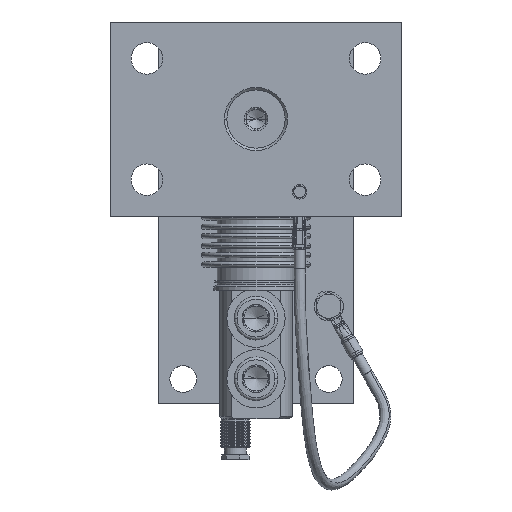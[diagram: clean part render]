
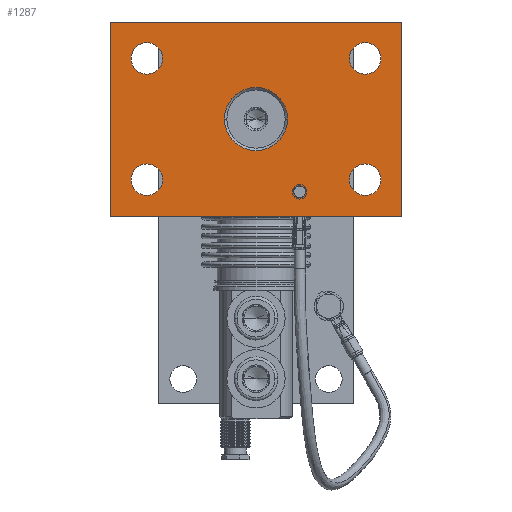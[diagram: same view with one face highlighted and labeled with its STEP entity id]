
A CAD part, top view. The second image highlights one B-rep face of the part: STEP entity #1287.
In plain terms, the highlighted planar face has unit normal (0, 0, 1).
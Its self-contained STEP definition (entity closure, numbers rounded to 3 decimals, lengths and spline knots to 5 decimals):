
#1287=ADVANCED_FACE('226:72',(#2284,#2285,#2286,#2287,#2288,#2289,#2290),#2291,.T.);
#2284=FACE_OUTER_BOUND('',#10453,.T.);
#2285=FACE_BOUND('',#10454,.T.);
#2286=FACE_BOUND('',#10455,.T.);
#2287=FACE_BOUND('',#10456,.T.);
#2288=FACE_BOUND('',#10457,.T.);
#2289=FACE_BOUND('',#10458,.T.);
#2290=FACE_BOUND('',#10459,.T.);
#2291=PLANE('',#10460);
#10453=EDGE_LOOP('',(#13064,#13065,#13066,#13067));
#10454=EDGE_LOOP('',(#13068,#13069));
#10455=EDGE_LOOP('',(#13070,#13071));
#10456=EDGE_LOOP('',(#13072,#13073));
#10457=EDGE_LOOP('',(#13074,#13075));
#10458=EDGE_LOOP('',(#13076,#13077));
#10459=EDGE_LOOP('',(#13078,#13079));
#10460=AXIS2_PLACEMENT_3D('',#13080,#13081,#13082);
#13064=ORIENTED_EDGE('',*,*,#17547,.F.);
#13065=ORIENTED_EDGE('',*,*,#17548,.F.);
#13066=ORIENTED_EDGE('',*,*,#17549,.F.);
#13067=ORIENTED_EDGE('',*,*,#17550,.F.);
#13068=ORIENTED_EDGE('',*,*,#17551,.F.);
#13069=ORIENTED_EDGE('',*,*,#17515,.F.);
#13070=ORIENTED_EDGE('',*,*,#17552,.F.);
#13071=ORIENTED_EDGE('',*,*,#17511,.F.);
#13072=ORIENTED_EDGE('',*,*,#17553,.F.);
#13073=ORIENTED_EDGE('',*,*,#17519,.F.);
#13074=ORIENTED_EDGE('',*,*,#17554,.F.);
#13075=ORIENTED_EDGE('',*,*,#17523,.F.);
#13076=ORIENTED_EDGE('',*,*,#17529,.T.);
#13077=ORIENTED_EDGE('',*,*,#17555,.T.);
#13078=ORIENTED_EDGE('',*,*,#17545,.F.);
#13079=ORIENTED_EDGE('',*,*,#17546,.F.);
#13080=CARTESIAN_POINT('',(0.0,0.0,0.043));
#13081=DIRECTION('',(0.0,0.0,1.0));
#13082=DIRECTION('',(1.0,0.0,0.0));
#17511=EDGE_CURVE('226:93',#19497,#19500,#19501,.T.);
#17515=EDGE_CURVE('226:90',#19505,#19508,#19509,.T.);
#17519=EDGE_CURVE('226:96',#19513,#19516,#19517,.T.);
#17523=EDGE_CURVE('226:99',#19521,#19524,#19525,.T.);
#17529=EDGE_CURVE('227:323',#19530,#19534,#19536,.T.);
#17545=EDGE_CURVE('232:1512',#19564,#19561,#19566,.T.);
#17546=EDGE_CURVE('232:1512',#19561,#19564,#19567,.T.);
#17547=EDGE_CURVE('223:1618',#19568,#19569,#19570,.T.);
#17548=EDGE_CURVE('223:1648',#19571,#19568,#19572,.T.);
#17549=EDGE_CURVE('223:1639',#19573,#19571,#19574,.T.);
#17550=EDGE_CURVE('223:1630',#19569,#19573,#19575,.T.);
#17551=EDGE_CURVE('226:90',#19508,#19505,#19576,.T.);
#17552=EDGE_CURVE('226:93',#19500,#19497,#19577,.T.);
#17553=EDGE_CURVE('226:96',#19516,#19513,#19578,.T.);
#17554=EDGE_CURVE('226:99',#19524,#19521,#19579,.T.);
#17555=EDGE_CURVE('227:323',#19534,#19530,#19580,.T.);
#19497=VERTEX_POINT('',#23544);
#19500=VERTEX_POINT('',#23548);
#19501=CIRCLE('',#23549,0.0065);
#19505=VERTEX_POINT('',#23554);
#19508=VERTEX_POINT('',#23558);
#19509=CIRCLE('',#23559,0.0065);
#19513=VERTEX_POINT('',#23564);
#19516=VERTEX_POINT('',#23568);
#19517=CIRCLE('',#23569,0.0065);
#19521=VERTEX_POINT('',#23574);
#19524=VERTEX_POINT('',#23578);
#19525=CIRCLE('',#23579,0.0065);
#19530=VERTEX_POINT('',#23585);
#19534=VERTEX_POINT('',#23590);
#19536=CIRCLE('',#23593,0.0025);
#19561=VERTEX_POINT('',#23624);
#19564=VERTEX_POINT('',#23628);
#19566=CIRCLE('',#23631,0.013);
#19567=CIRCLE('',#23632,0.013);
#19568=VERTEX_POINT('',#23633);
#19569=VERTEX_POINT('',#23634);
#19570=LINE('',#23635,#23636);
#19571=VERTEX_POINT('',#23637);
#19572=LINE('',#23638,#23639);
#19573=VERTEX_POINT('',#23640);
#19574=LINE('',#23641,#23642);
#19575=LINE('',#23643,#23644);
#19576=CIRCLE('',#23645,0.0065);
#19577=CIRCLE('',#23646,0.0065);
#19578=CIRCLE('',#23647,0.0065);
#19579=CIRCLE('',#23648,0.0065);
#19580=CIRCLE('',#23649,0.0025);
#23544=CARTESIAN_POINT('',(-0.0515,0.025,0.043));
#23548=CARTESIAN_POINT('',(-0.0385,0.025,0.043));
#23549=AXIS2_PLACEMENT_3D('',#27449,#27450,#27451);
#23554=CARTESIAN_POINT('',(-0.0515,-0.025,0.043));
#23558=CARTESIAN_POINT('',(-0.0385,-0.025,0.043));
#23559=AXIS2_PLACEMENT_3D('',#27457,#27458,#27459);
#23564=CARTESIAN_POINT('',(0.0385,-0.025,0.043));
#23568=CARTESIAN_POINT('',(0.0515,-0.025,0.043));
#23569=AXIS2_PLACEMENT_3D('',#27465,#27466,#27467);
#23574=CARTESIAN_POINT('',(0.0385,0.025,0.043));
#23578=CARTESIAN_POINT('',(0.0515,0.025,0.043));
#23579=AXIS2_PLACEMENT_3D('',#27473,#27474,#27475);
#23585=CARTESIAN_POINT('',(0.0155,-0.03,0.043));
#23590=CARTESIAN_POINT('',(0.0205,-0.03,0.043));
#23593=AXIS2_PLACEMENT_3D('',#27485,#27486,#27487);
#23624=CARTESIAN_POINT('',(-0.013,0.,0.043));
#23628=CARTESIAN_POINT('',(0.013,0.,0.043));
#23631=AXIS2_PLACEMENT_3D('',#27517,#27518,#27519);
#23632=AXIS2_PLACEMENT_3D('',#27520,#27521,#27522);
#23633=CARTESIAN_POINT('',(-0.06,0.04,0.043));
#23634=CARTESIAN_POINT('',(0.06,0.04,0.043));
#23635=CARTESIAN_POINT('',(-0.06,0.04,0.043));
#23636=VECTOR('',#27523,1.0);
#23637=CARTESIAN_POINT('',(-0.06,-0.04,0.043));
#23638=CARTESIAN_POINT('',(-0.06,-0.04,0.043));
#23639=VECTOR('',#27524,1.0);
#23640=CARTESIAN_POINT('',(0.06,-0.04,0.043));
#23641=CARTESIAN_POINT('',(0.06,-0.04,0.043));
#23642=VECTOR('',#27525,1.0);
#23643=CARTESIAN_POINT('',(0.06,0.04,0.043));
#23644=VECTOR('',#27526,1.0);
#23645=AXIS2_PLACEMENT_3D('',#27527,#27528,#27529);
#23646=AXIS2_PLACEMENT_3D('',#27530,#27531,#27532);
#23647=AXIS2_PLACEMENT_3D('',#27533,#27534,#27535);
#23648=AXIS2_PLACEMENT_3D('',#27536,#27537,#27538);
#23649=AXIS2_PLACEMENT_3D('',#27539,#27540,#27541);
#27449=CARTESIAN_POINT('',(-0.045,0.025,0.043));
#27450=DIRECTION('',(0.0,0.0,1.0));
#27451=DIRECTION('',(1.0,0.0,0.0));
#27457=CARTESIAN_POINT('',(-0.045,-0.025,0.043));
#27458=DIRECTION('',(0.0,0.0,1.0));
#27459=DIRECTION('',(1.0,0.0,0.0));
#27465=CARTESIAN_POINT('',(0.045,-0.025,0.043));
#27466=DIRECTION('',(0.0,0.0,1.0));
#27467=DIRECTION('',(1.0,0.0,0.0));
#27473=CARTESIAN_POINT('',(0.045,0.025,0.043));
#27474=DIRECTION('',(0.0,0.0,1.0));
#27475=DIRECTION('',(1.0,0.0,0.0));
#27485=CARTESIAN_POINT('',(0.018,-0.03,0.043));
#27486=DIRECTION('',(-0.0,0.0,-1.0));
#27487=DIRECTION('',(-1.0,0.0,0.0));
#27517=CARTESIAN_POINT('',(0.,0.0,0.043));
#27518=DIRECTION('',(0.0,0.0,1.0));
#27519=DIRECTION('',(-1.0,0.0,0.0));
#27520=CARTESIAN_POINT('',(0.,0.0,0.043));
#27521=DIRECTION('',(0.0,0.0,1.0));
#27522=DIRECTION('',(-1.0,0.0,0.0));
#27523=DIRECTION('',(1.0,0.0,0.0));
#27524=DIRECTION('',(0.0,1.0,0.0));
#27525=DIRECTION('',(-1.0,0.0,0.0));
#27526=DIRECTION('',(0.0,-1.0,0.0));
#27527=CARTESIAN_POINT('',(-0.045,-0.025,0.043));
#27528=DIRECTION('',(0.0,0.0,1.0));
#27529=DIRECTION('',(1.0,0.0,0.0));
#27530=CARTESIAN_POINT('',(-0.045,0.025,0.043));
#27531=DIRECTION('',(0.0,0.0,1.0));
#27532=DIRECTION('',(1.0,0.0,0.0));
#27533=CARTESIAN_POINT('',(0.045,-0.025,0.043));
#27534=DIRECTION('',(0.0,0.0,1.0));
#27535=DIRECTION('',(1.0,0.0,0.0));
#27536=CARTESIAN_POINT('',(0.045,0.025,0.043));
#27537=DIRECTION('',(0.0,0.0,1.0));
#27538=DIRECTION('',(1.0,0.0,0.0));
#27539=CARTESIAN_POINT('',(0.018,-0.03,0.043));
#27540=DIRECTION('',(-0.0,0.0,-1.0));
#27541=DIRECTION('',(-1.0,0.0,0.0));
